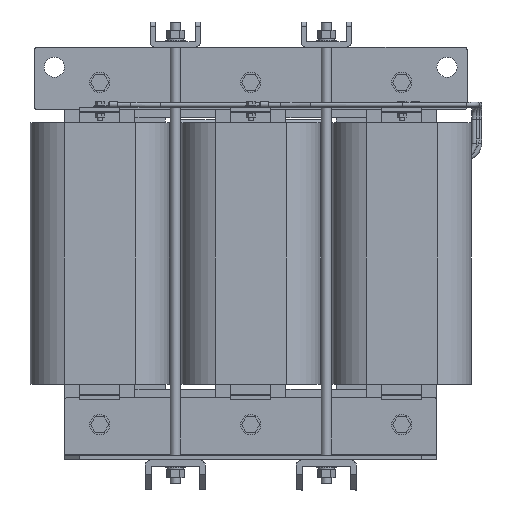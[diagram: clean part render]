
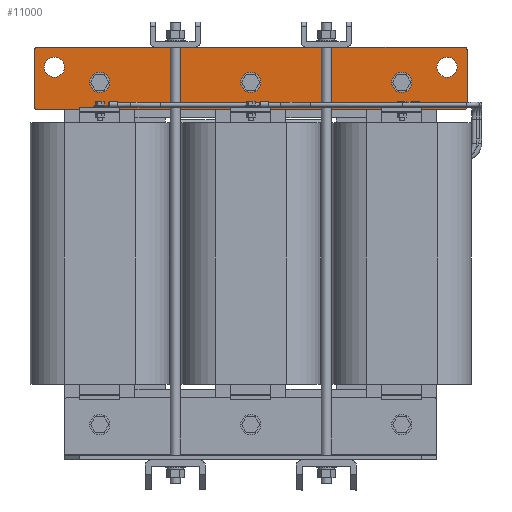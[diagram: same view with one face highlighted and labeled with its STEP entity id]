
A CAD part, front view. The second image highlights one B-rep face of the part: STEP entity #11000.
In plain terms, the highlighted planar face has unit normal (0, -1, 0).
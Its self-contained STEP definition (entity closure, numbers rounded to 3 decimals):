
#8 = AXIS2_PLACEMENT_3D ( 'NONE', #21244, #28501, #53207 ) ;
#127 = EDGE_CURVE ( 'NONE', #52162, #60717, #43681, .T. ) ;
#149 = AXIS2_PLACEMENT_3D ( 'NONE', #50475, #75174, #19724 ) ;
#168 = DIRECTION ( 'NONE',  ( 0., -1., 0. ) ) ;
#2037 = VERTEX_POINT ( 'NONE', #35324 ) ;
#2496 = EDGE_CURVE ( 'NONE', #60717, #39693, #70044, .T. ) ;
#2991 = CIRCLE ( 'NONE', #50850, 3. ) ;
#4278 = ORIENTED_EDGE ( 'NONE', *, *, #13397, .T. ) ;
#6852 = DIRECTION ( 'NONE',  ( 0., 0., -1. ) ) ;
#9133 = VERTEX_POINT ( 'NONE', #50805 ) ;
#10527 = LINE ( 'NONE', #39679, #56515 ) ;
#11000 = ADVANCED_FACE ( 'NONE', ( #76698, #46752, #22048 ), #40670, .T. ) ;
#12008 = CARTESIAN_POINT ( 'NONE',  ( -212., -1015.799, 351. ) ) ;
#13073 = CARTESIAN_POINT ( 'NONE',  ( -195., -1015.799, 390. ) ) ;
#13366 = VERTEX_POINT ( 'NONE', #67004 ) ;
#13397 = EDGE_CURVE ( 'NONE', #35322, #35322, #18566, .T. ) ;
#16982 = ORIENTED_EDGE ( 'NONE', *, *, #2496, .T. ) ;
#18566 = CIRCLE ( 'NONE', #63803, 10. ) ;
#19608 = VECTOR ( 'NONE', #73848, 1000. ) ;
#19724 = DIRECTION ( 'NONE',  ( 0., 0., 1. ) ) ;
#20862 = CIRCLE ( 'NONE', #149, 3. ) ;
#21244 = CARTESIAN_POINT ( 'NONE',  ( 60., -1015.799, 379. ) ) ;
#21369 = EDGE_CURVE ( 'NONE', #2037, #29332, #72032, .T. ) ;
#22048 = FACE_OUTER_BOUND ( 'NONE', #30312, .T. ) ;
#22354 = ORIENTED_EDGE ( 'NONE', *, *, #127, .T. ) ;
#22646 = DIRECTION ( 'NONE',  ( -1., 0., 0. ) ) ;
#24076 = CARTESIAN_POINT ( 'NONE',  ( 60., -1015.799, 348. ) ) ;
#24098 = CARTESIAN_POINT ( 'NONE',  ( 195., -1015.799, 390. ) ) ;
#26609 = DIRECTION ( 'NONE',  ( 0., -1., 0. ) ) ;
#27229 = EDGE_CURVE ( 'NONE', #29332, #9133, #32499, .T. ) ;
#27398 = CARTESIAN_POINT ( 'NONE',  ( 212., -1015.799, 410. ) ) ;
#28501 = DIRECTION ( 'NONE',  ( 0., -1., 0. ) ) ;
#29332 = VERTEX_POINT ( 'NONE', #78430 ) ;
#30150 = CARTESIAN_POINT ( 'NONE',  ( 212., -1015.799, 351. ) ) ;
#30312 = EDGE_LOOP ( 'NONE', ( #51926, #22354, #16982, #68764, #71997, #76122, #65537, #65502 ) ) ;
#30608 = DIRECTION ( 'NONE',  ( 0., 0., -1. ) ) ;
#31627 = EDGE_CURVE ( 'NONE', #55354, #55354, #47338, .T. ) ;
#32499 = LINE ( 'NONE', #64848, #74773 ) ;
#35160 = AXIS2_PLACEMENT_3D ( 'NONE', #12008, #54893, #30608 ) ;
#35322 = VERTEX_POINT ( 'NONE', #60013 ) ;
#35324 = CARTESIAN_POINT ( 'NONE',  ( 212., -1015.799, 348. ) ) ;
#36265 = VECTOR ( 'NONE', #6852, 1000. ) ;
#39679 = CARTESIAN_POINT ( 'NONE',  ( 60., -1015.799, 410. ) ) ;
#39693 = VERTEX_POINT ( 'NONE', #44526 ) ;
#40468 = VERTEX_POINT ( 'NONE', #27398 ) ;
#40670 = PLANE ( 'NONE',  #8 ) ;
#43681 = LINE ( 'NONE', #68371, #36265 ) ;
#43933 = EDGE_CURVE ( 'NONE', #40468, #13366, #10527, .T. ) ;
#44526 = CARTESIAN_POINT ( 'NONE',  ( -212., -1015.799, 348. ) ) ;
#45029 = DIRECTION ( 'NONE',  ( 0., 0., 1. ) ) ;
#45348 = CARTESIAN_POINT ( 'NONE',  ( -215., -1015.799, 407. ) ) ;
#46752 = FACE_BOUND ( 'NONE', #49361, .T. ) ;
#47338 = CIRCLE ( 'NONE', #79626, 10. ) ;
#48775 = DIRECTION ( 'NONE',  ( 0., 0., 1. ) ) ;
#49361 = EDGE_LOOP ( 'NONE', ( #4278 ) ) ;
#50475 = CARTESIAN_POINT ( 'NONE',  ( 212., -1015.799, 407. ) ) ;
#50805 = CARTESIAN_POINT ( 'NONE',  ( 215., -1015.799, 407. ) ) ;
#50850 = AXIS2_PLACEMENT_3D ( 'NONE', #50917, #26609, #51316 ) ;
#50917 = CARTESIAN_POINT ( 'NONE',  ( -212., -1015.799, 407. ) ) ;
#51316 = DIRECTION ( 'NONE',  ( 0., 0., -1. ) ) ;
#51873 = CARTESIAN_POINT ( 'NONE',  ( -215., -1015.799, 351. ) ) ;
#51926 = ORIENTED_EDGE ( 'NONE', *, *, #72389, .T. ) ;
#52162 = VERTEX_POINT ( 'NONE', #45348 ) ;
#52405 = EDGE_CURVE ( 'NONE', #9133, #40468, #20862, .T. ) ;
#53207 = DIRECTION ( 'NONE',  ( 0., 0., -1. ) ) ;
#54893 = DIRECTION ( 'NONE',  ( 0., -1., 0. ) ) ;
#55354 = VERTEX_POINT ( 'NONE', #73169 ) ;
#56515 = VECTOR ( 'NONE', #22646, 1000. ) ;
#59296 = EDGE_LOOP ( 'NONE', ( #78418 ) ) ;
#60013 = CARTESIAN_POINT ( 'NONE',  ( 195., -1015.799, 400. ) ) ;
#60717 = VERTEX_POINT ( 'NONE', #51873 ) ;
#63803 = AXIS2_PLACEMENT_3D ( 'NONE', #24098, #68202, #48775 ) ;
#64036 = DIRECTION ( 'NONE',  ( 0., 1., 0. ) ) ;
#64313 = AXIS2_PLACEMENT_3D ( 'NONE', #30150, #168, #79522 ) ;
#64848 = CARTESIAN_POINT ( 'NONE',  ( 215., -1015.799, 379. ) ) ;
#65502 = ORIENTED_EDGE ( 'NONE', *, *, #43933, .T. ) ;
#65537 = ORIENTED_EDGE ( 'NONE', *, *, #52405, .T. ) ;
#67004 = CARTESIAN_POINT ( 'NONE',  ( -212., -1015.799, 410. ) ) ;
#67964 = EDGE_CURVE ( 'NONE', #39693, #2037, #79510, .T. ) ;
#68202 = DIRECTION ( 'NONE',  ( 0., 1., 0. ) ) ;
#68371 = CARTESIAN_POINT ( 'NONE',  ( -215., -1015.799, 379. ) ) ;
#68764 = ORIENTED_EDGE ( 'NONE', *, *, #67964, .T. ) ;
#70044 = CIRCLE ( 'NONE', #35160, 3. ) ;
#71997 = ORIENTED_EDGE ( 'NONE', *, *, #21369, .T. ) ;
#72032 = CIRCLE ( 'NONE', #64313, 3. ) ;
#72389 = EDGE_CURVE ( 'NONE', #13366, #52162, #2991, .T. ) ;
#73169 = CARTESIAN_POINT ( 'NONE',  ( -195., -1015.799, 380. ) ) ;
#73848 = DIRECTION ( 'NONE',  ( 1., 0., 0. ) ) ;
#74773 = VECTOR ( 'NONE', #45029, 1000. ) ;
#75174 = DIRECTION ( 'NONE',  ( 0., -1., 0. ) ) ;
#75376 = DIRECTION ( 'NONE',  ( 0., 0., -1. ) ) ;
#76122 = ORIENTED_EDGE ( 'NONE', *, *, #27229, .T. ) ;
#76698 = FACE_BOUND ( 'NONE', #59296, .T. ) ;
#78418 = ORIENTED_EDGE ( 'NONE', *, *, #31627, .T. ) ;
#78430 = CARTESIAN_POINT ( 'NONE',  ( 215., -1015.799, 351. ) ) ;
#79510 = LINE ( 'NONE', #24076, #19608 ) ;
#79522 = DIRECTION ( 'NONE',  ( 0., 0., 1. ) ) ;
#79626 = AXIS2_PLACEMENT_3D ( 'NONE', #13073, #64036, #75376 ) ;
